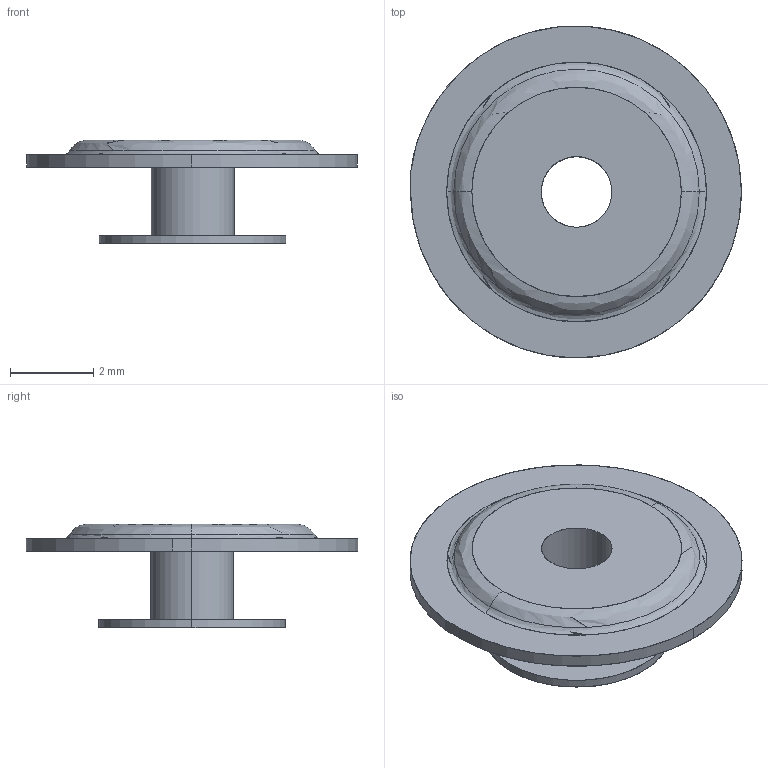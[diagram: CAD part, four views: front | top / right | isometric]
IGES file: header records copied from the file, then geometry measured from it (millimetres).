
Start section: SolidWorks IGES file using analytic representation for surfaces
Global section: file name: C:\Users\AndreBernot\Downloads\K-RACER-L_3D_SW\K-RACER-L_3D_SW\RESSORT PILE 2.IGS; native system: SolidWorks 2015; preprocessor: SolidWorks 2015; author: AndreBernot; date: 170922.151419; units: millimetre
Bounding box: 7.97 x 8 x 2.5 mm (x, y, z)
Surface area: 157.7 mm2 (no closed solid volume)
Topology: 0 solids, 0 shells, 19 faces, 346 edges, 346 vertices
Faces by surface type: bspline 10, revolution 9
